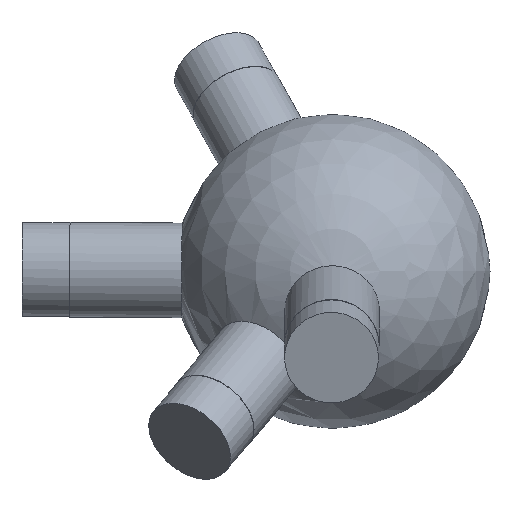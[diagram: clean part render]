
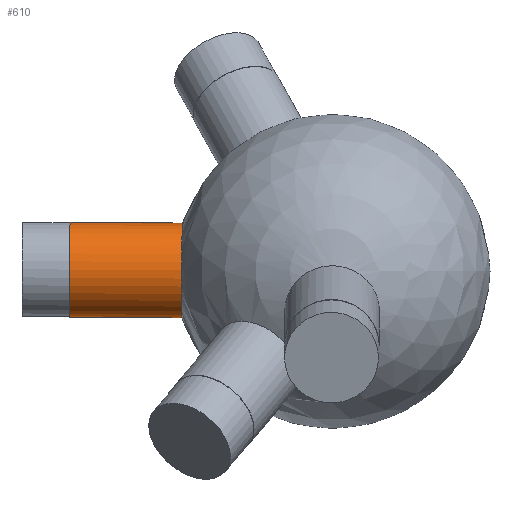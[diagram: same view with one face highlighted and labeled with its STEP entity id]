
A CAD part, top view. The second image highlights one B-rep face of the part: STEP entity #610.
In plain terms, the highlighted cylindrical face has radius 6 mm (diameter 12 mm), a full revolution.
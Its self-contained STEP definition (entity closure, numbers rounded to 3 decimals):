
#33 = SPHERICAL_SURFACE('',#34,20.);
#34 = AXIS2_PLACEMENT_3D('',#35,#36,#37);
#35 = CARTESIAN_POINT('',(0.,0.,0.));
#36 = DIRECTION('',(0.,0.,1.));
#37 = DIRECTION('',(1.,0.,-0.));
#330 = EDGE_CURVE('',#331,#331,#333,.T.);
#331 = VERTEX_POINT('',#332);
#332 = CARTESIAN_POINT('',(-19.034,0.128,-6.14
    ));
#333 = SURFACE_CURVE('',#334,(#339,#394),.PCURVE_S1.);
#334 = CIRCLE('',#335,6.);
#335 = AXIS2_PLACEMENT_3D('',#336,#337,#338);
#336 = CARTESIAN_POINT('',(-19.078,0.128,-0.14
    ));
#337 = DIRECTION('',(-1.,0.007,
    -0.007));
#338 = DIRECTION('',(0.007,0.,
    -1.));
#339 = PCURVE('',#33,#340);
#340 = DEFINITIONAL_REPRESENTATION('',(#341),#393);
#341 = B_SPLINE_CURVE_WITH_KNOTS('',8,(#342,#343,#344,#345,#346,#347,
    #348,#349,#350,#351,#352,#353,#354,#355,#356,#357,#358,#359,#360,
    #361,#362,#363,#364,#365,#366,#367,#368,#369,#370,#371,#372,#373,
    #374,#375,#376,#377,#378,#379,#380,#381,#382,#383,#384,#385,#386,
    #387,#388,#389,#390,#391,#392),.UNSPECIFIED.,.T.,.F.,(9,7,7,7,7,7,7,
    9),(0.,0.785,1.473,2.675,3.577,
    4.254,5.268,6.283),.UNSPECIFIED.);
#342 = CARTESIAN_POINT('',(3.135,-0.312));
#343 = CARTESIAN_POINT('',(3.166,-0.312));
#344 = CARTESIAN_POINT('',(3.197,-0.309));
#345 = CARTESIAN_POINT('',(3.227,-0.302));
#346 = CARTESIAN_POINT('',(3.256,-0.291));
#347 = CARTESIAN_POINT('',(3.284,-0.278));
#348 = CARTESIAN_POINT('',(3.31,-0.261));
#349 = CARTESIAN_POINT('',(3.333,-0.242));
#350 = CARTESIAN_POINT('',(3.372,-0.202));
#351 = CARTESIAN_POINT('',(3.388,-0.182));
#352 = CARTESIAN_POINT('',(3.403,-0.16));
#353 = CARTESIAN_POINT('',(3.414,-0.137));
#354 = CARTESIAN_POINT('',(3.424,-0.112));
#355 = CARTESIAN_POINT('',(3.431,-0.088));
#356 = CARTESIAN_POINT('',(3.436,-0.062));
#357 = CARTESIAN_POINT('',(3.442,0.008));
#358 = CARTESIAN_POINT('',(3.439,0.054));
#359 = CARTESIAN_POINT('',(3.428,0.099));
#360 = CARTESIAN_POINT('',(3.41,0.142));
#361 = CARTESIAN_POINT('',(3.385,0.181));
#362 = CARTESIAN_POINT('',(3.354,0.215));
#363 = CARTESIAN_POINT('',(3.316,0.243));
#364 = CARTESIAN_POINT('',(3.244,0.28));
#365 = CARTESIAN_POINT('',(3.211,0.292));
#366 = CARTESIAN_POINT('',(3.176,0.299));
#367 = CARTESIAN_POINT('',(3.14,0.302));
#368 = CARTESIAN_POINT('',(3.104,0.3));
#369 = CARTESIAN_POINT('',(3.069,0.294));
#370 = CARTESIAN_POINT('',(3.035,0.283));
#371 = CARTESIAN_POINT('',(2.98,0.257));
#372 = CARTESIAN_POINT('',(2.957,0.244));
#373 = CARTESIAN_POINT('',(2.936,0.228));
#374 = CARTESIAN_POINT('',(2.917,0.211));
#375 = CARTESIAN_POINT('',(2.9,0.192));
#376 = CARTESIAN_POINT('',(2.884,0.171));
#377 = CARTESIAN_POINT('',(2.871,0.149));
#378 = CARTESIAN_POINT('',(2.844,0.092));
#379 = CARTESIAN_POINT('',(2.832,0.055));
#380 = CARTESIAN_POINT('',(2.826,0.017));
#381 = CARTESIAN_POINT('',(2.825,-0.022));
#382 = CARTESIAN_POINT('',(2.83,-0.06));
#383 = CARTESIAN_POINT('',(2.839,-0.098));
#384 = CARTESIAN_POINT('',(2.854,-0.133));
#385 = CARTESIAN_POINT('',(2.893,-0.199));
#386 = CARTESIAN_POINT('',(2.918,-0.229));
#387 = CARTESIAN_POINT('',(2.947,-0.255));
#388 = CARTESIAN_POINT('',(2.98,-0.277));
#389 = CARTESIAN_POINT('',(3.016,-0.295));
#390 = CARTESIAN_POINT('',(3.055,-0.306));
#391 = CARTESIAN_POINT('',(3.095,-0.312));
#392 = CARTESIAN_POINT('',(3.135,-0.312));
#393 = ( GEOMETRIC_REPRESENTATION_CONTEXT(2) 
PARAMETRIC_REPRESENTATION_CONTEXT() REPRESENTATION_CONTEXT('2D SPACE',''
  ) );
#394 = PCURVE('',#395,#400);
#395 = CYLINDRICAL_SURFACE('',#396,6.);
#396 = AXIS2_PLACEMENT_3D('',#397,#398,#399);
#397 = CARTESIAN_POINT('',(0.,0.,0.));
#398 = DIRECTION('',(-1.,0.007,
    -0.007));
#399 = DIRECTION('',(0.007,0.,
    -1.));
#400 = DEFINITIONAL_REPRESENTATION('',(#401),#405);
#401 = LINE('',#402,#403);
#402 = CARTESIAN_POINT('',(0.,19.079));
#403 = VECTOR('',#404,1.);
#404 = DIRECTION('',(1.,0.));
#405 = ( GEOMETRIC_REPRESENTATION_CONTEXT(2) 
PARAMETRIC_REPRESENTATION_CONTEXT() REPRESENTATION_CONTEXT('2D SPACE',''
  ) );
#610 = ADVANCED_FACE('',(#611),#395,.T.);
#611 = FACE_BOUND('',#612,.T.);
#612 = EDGE_LOOP('',(#613,#636,#663,#664));
#613 = ORIENTED_EDGE('',*,*,#614,.T.);
#614 = EDGE_CURVE('',#331,#615,#617,.T.);
#615 = VERTEX_POINT('',#616);
#616 = CARTESIAN_POINT('',(-33.252,0.223,-6.244
    ));
#617 = SEAM_CURVE('',#618,(#622,#629),.PCURVE_S1.);
#618 = LINE('',#619,#620);
#619 = CARTESIAN_POINT('',(0.044,0.,
    -6.));
#620 = VECTOR('',#621,1.);
#621 = DIRECTION('',(-1.,0.007,
    -0.007));
#622 = PCURVE('',#395,#623);
#623 = DEFINITIONAL_REPRESENTATION('',(#624),#628);
#624 = LINE('',#625,#626);
#625 = CARTESIAN_POINT('',(6.283,-0.));
#626 = VECTOR('',#627,1.);
#627 = DIRECTION('',(0.,1.));
#628 = ( GEOMETRIC_REPRESENTATION_CONTEXT(2) 
PARAMETRIC_REPRESENTATION_CONTEXT() REPRESENTATION_CONTEXT('2D SPACE',''
  ) );
#629 = PCURVE('',#395,#630);
#630 = DEFINITIONAL_REPRESENTATION('',(#631),#635);
#631 = LINE('',#632,#633);
#632 = CARTESIAN_POINT('',(0.,-0.));
#633 = VECTOR('',#634,1.);
#634 = DIRECTION('',(0.,1.));
#635 = ( GEOMETRIC_REPRESENTATION_CONTEXT(2) 
PARAMETRIC_REPRESENTATION_CONTEXT() REPRESENTATION_CONTEXT('2D SPACE',''
  ) );
#636 = ORIENTED_EDGE('',*,*,#637,.F.);
#637 = EDGE_CURVE('',#615,#615,#638,.T.);
#638 = SURFACE_CURVE('',#639,(#644,#651),.PCURVE_S1.);
#639 = CIRCLE('',#640,6.);
#640 = AXIS2_PLACEMENT_3D('',#641,#642,#643);
#641 = CARTESIAN_POINT('',(-33.296,0.223,
    -0.244));
#642 = DIRECTION('',(-1.,0.007,
    -0.007));
#643 = DIRECTION('',(0.007,0.,-1.
    ));
#644 = PCURVE('',#395,#645);
#645 = DEFINITIONAL_REPRESENTATION('',(#646),#650);
#646 = LINE('',#647,#648);
#647 = CARTESIAN_POINT('',(0.,33.297));
#648 = VECTOR('',#649,1.);
#649 = DIRECTION('',(1.,0.));
#650 = ( GEOMETRIC_REPRESENTATION_CONTEXT(2) 
PARAMETRIC_REPRESENTATION_CONTEXT() REPRESENTATION_CONTEXT('2D SPACE',''
  ) );
#651 = PCURVE('',#652,#657);
#652 = PLANE('',#653);
#653 = AXIS2_PLACEMENT_3D('',#654,#655,#656);
#654 = CARTESIAN_POINT('',(-33.296,0.223,
    -0.244));
#655 = DIRECTION('',(-1.,0.007,
    -0.007));
#656 = DIRECTION('',(0.007,0.,
    -1.));
#657 = DEFINITIONAL_REPRESENTATION('',(#658),#662);
#658 = CIRCLE('',#659,6.);
#659 = AXIS2_PLACEMENT_2D('',#660,#661);
#660 = CARTESIAN_POINT('',(0.,0.));
#661 = DIRECTION('',(1.,0.));
#662 = ( GEOMETRIC_REPRESENTATION_CONTEXT(2) 
PARAMETRIC_REPRESENTATION_CONTEXT() REPRESENTATION_CONTEXT('2D SPACE',''
  ) );
#663 = ORIENTED_EDGE('',*,*,#614,.F.);
#664 = ORIENTED_EDGE('',*,*,#330,.T.);
